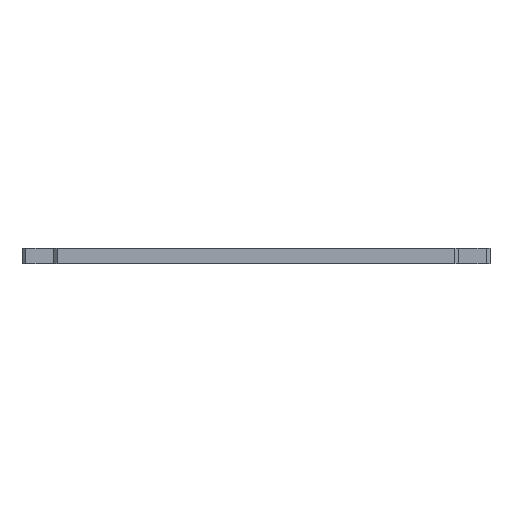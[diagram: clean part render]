
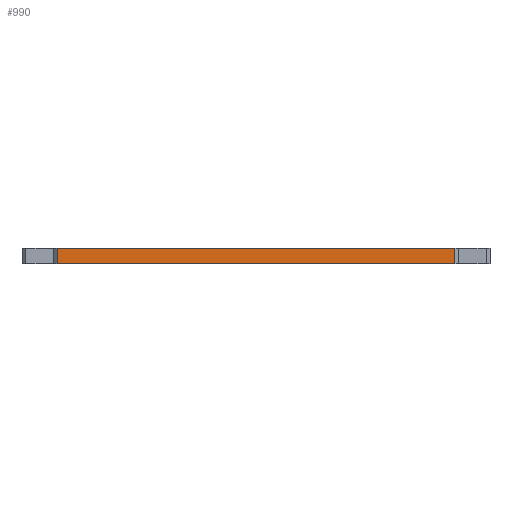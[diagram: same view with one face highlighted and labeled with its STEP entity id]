
A CAD part, front view. The second image highlights one B-rep face of the part: STEP entity #990.
In plain terms, the highlighted planar face has unit normal (0, -1, 0).
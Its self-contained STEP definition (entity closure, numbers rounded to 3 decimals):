
#22 = CARTESIAN_POINT ( 'NONE',  ( 255., -355., 0. ) ) ;
#619 = LINE ( 'NONE', #6480, #2065 ) ;
#698 = DIRECTION ( 'NONE',  ( 0., 1., 0. ) ) ;
#734 = DIRECTION ( 'NONE',  ( 1., 0., 0. ) ) ;
#901 = EDGE_CURVE ( 'NONE', #5240, #7167, #4774, .T. ) ;
#966 = DIRECTION ( 'NONE',  ( 0., 0., 1. ) ) ;
#990 = ADVANCED_FACE ( 'NONE', ( #1810 ), #1311, .F. ) ;
#1133 = EDGE_CURVE ( 'NONE', #4613, #7167, #4993, .T. ) ;
#1311 = PLANE ( 'NONE',  #5549 ) ;
#1750 = DIRECTION ( 'NONE',  ( 0., 0., -1. ) ) ;
#1810 = FACE_OUTER_BOUND ( 'NONE', #3118, .T. ) ;
#1929 = CARTESIAN_POINT ( 'NONE',  ( -255., -355., 0. ) ) ;
#2057 = VERTEX_POINT ( 'NONE', #1929 ) ;
#2065 = VECTOR ( 'NONE', #3535, 1000. ) ;
#2801 = EDGE_CURVE ( 'NONE', #2057, #4613, #619, .T. ) ;
#2893 = ORIENTED_EDGE ( 'NONE', *, *, #1133, .T. ) ;
#3118 = EDGE_LOOP ( 'NONE', ( #6361, #2893, #3550, #7484 ) ) ;
#3535 = DIRECTION ( 'NONE',  ( 1., 0., 0. ) ) ;
#3550 = ORIENTED_EDGE ( 'NONE', *, *, #901, .F. ) ;
#3589 = VECTOR ( 'NONE', #734, 1000. ) ;
#4090 = VECTOR ( 'NONE', #966, 1000. ) ;
#4613 = VERTEX_POINT ( 'NONE', #22 ) ;
#4710 = CARTESIAN_POINT ( 'NONE',  ( -255., -355., 20. ) ) ;
#4774 = LINE ( 'NONE', #6460, #3589 ) ;
#4798 = DIRECTION ( 'NONE',  ( 0., 0., 1. ) ) ;
#4993 = LINE ( 'NONE', #6736, #4090 ) ;
#5240 = VERTEX_POINT ( 'NONE', #7204 ) ;
#5459 = EDGE_CURVE ( 'NONE', #5240, #2057, #6287, .T. ) ;
#5549 = AXIS2_PLACEMENT_3D ( 'NONE', #5892, #698, #4798 ) ;
#5590 = CARTESIAN_POINT ( 'NONE',  ( 255., -355., 20. ) ) ;
#5684 = VECTOR ( 'NONE', #1750, 1000. ) ;
#5892 = CARTESIAN_POINT ( 'NONE',  ( -300., -355., 20. ) ) ;
#6287 = LINE ( 'NONE', #4710, #5684 ) ;
#6361 = ORIENTED_EDGE ( 'NONE', *, *, #2801, .T. ) ;
#6460 = CARTESIAN_POINT ( 'NONE',  ( -300., -355., 20. ) ) ;
#6480 = CARTESIAN_POINT ( 'NONE',  ( -300., -355., 0. ) ) ;
#6736 = CARTESIAN_POINT ( 'NONE',  ( 255., -355., 20. ) ) ;
#7167 = VERTEX_POINT ( 'NONE', #5590 ) ;
#7204 = CARTESIAN_POINT ( 'NONE',  ( -255., -355., 20. ) ) ;
#7484 = ORIENTED_EDGE ( 'NONE', *, *, #5459, .T. ) ;
